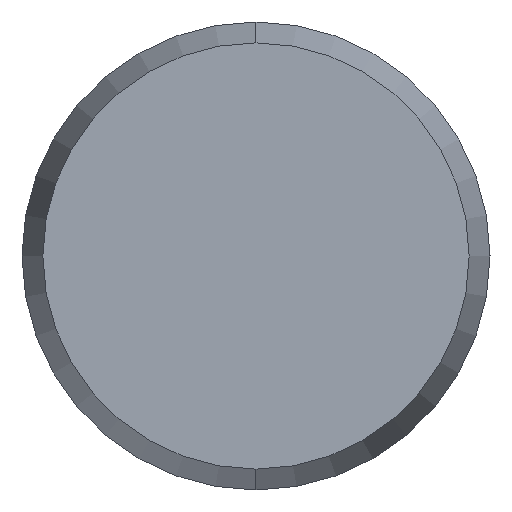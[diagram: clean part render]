
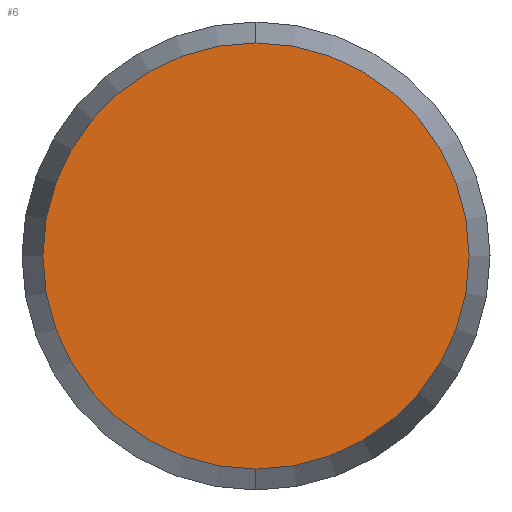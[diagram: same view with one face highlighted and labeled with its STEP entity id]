
A CAD part, left-side view. The second image highlights one B-rep face of the part: STEP entity #6.
In plain terms, the highlighted planar face has unit normal (-1, 0, 0).
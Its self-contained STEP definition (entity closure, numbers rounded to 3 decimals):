
#4 = ORIENTED_EDGE ( 'NONE', *, *, #60, .F. ) ;
#5 = EDGE_LOOP ( 'NONE', ( #4, #8 ) ) ;
#6 = ADVANCED_FACE ( 'NONE', ( #69 ), #79, .F. ) ;
#8 = ORIENTED_EDGE ( 'NONE', *, *, #16, .F. ) ;
#16 = EDGE_CURVE ( 'NONE', #59, #58, #91, .T. ) ;
#58 = VERTEX_POINT ( 'NONE', #136 ) ;
#59 = VERTEX_POINT ( 'NONE', #161 ) ;
#60 = EDGE_CURVE ( 'NONE', #58, #59, #165, .T. ) ;
#69 = FACE_OUTER_BOUND ( 'NONE', #5, .T. ) ;
#73 = DIRECTION ( 'NONE',  ( 0., 0., -1. ) ) ;
#79 = PLANE ( 'NONE',  #99 ) ;
#81 = DIRECTION ( 'NONE',  ( 0., 0., -1. ) ) ;
#82 = DIRECTION ( 'NONE',  ( 1., 0., 0. ) ) ;
#86 = CARTESIAN_POINT ( 'NONE',  ( -14., 0., 0. ) ) ;
#89 = DIRECTION ( 'NONE',  ( 1., 0., 0. ) ) ;
#90 = AXIS2_PLACEMENT_3D ( 'NONE', #86, #89, #73 ) ;
#91 = CIRCLE ( 'NONE', #90, 1.366 ) ;
#98 = CARTESIAN_POINT ( 'NONE',  ( -14., 0., 0. ) ) ;
#99 = AXIS2_PLACEMENT_3D ( 'NONE', #98, #82, #81 ) ;
#136 = CARTESIAN_POINT ( 'NONE',  ( -14., 0., 1.366 ) ) ;
#161 = CARTESIAN_POINT ( 'NONE',  ( -14., 0., -1.366 ) ) ;
#164 = DIRECTION ( 'NONE',  ( 1., 0., 0. ) ) ;
#165 = CIRCLE ( 'NONE', #167, 1.366 ) ;
#166 = CARTESIAN_POINT ( 'NONE',  ( -14., 0., 0. ) ) ;
#167 = AXIS2_PLACEMENT_3D ( 'NONE', #166, #164, #174 ) ;
#174 = DIRECTION ( 'NONE',  ( 0., 0., -1. ) ) ;
